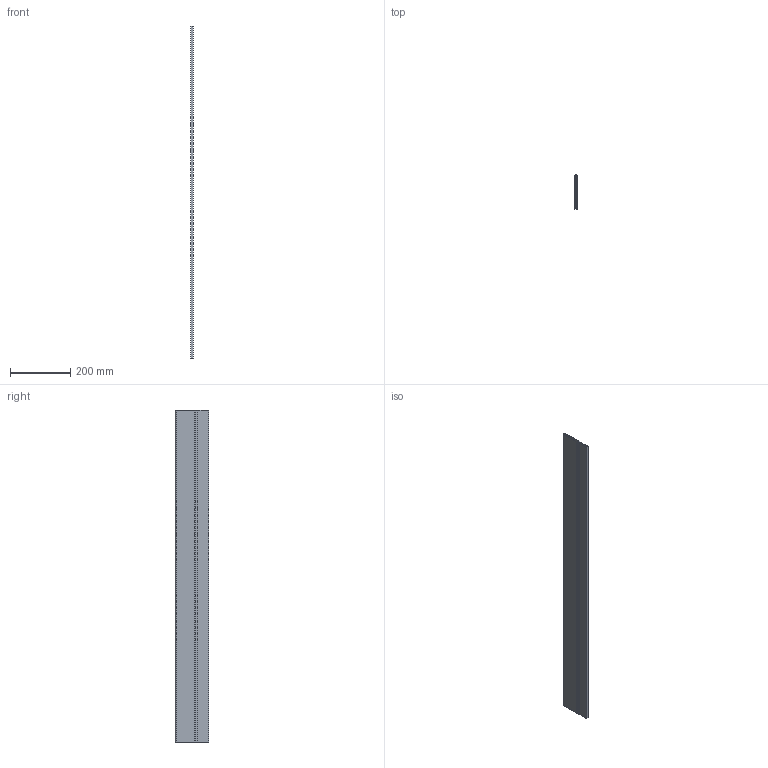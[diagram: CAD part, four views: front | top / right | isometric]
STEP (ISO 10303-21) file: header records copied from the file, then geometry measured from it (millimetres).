
FILE_DESCRIPTION (( 'STEP AP203' ), '1' );
FILE_NAME ('StrongBox pøíèný pøedìl 1100mm_179249 a 179250_3D.STEP', '2021-02-22T08:41:10', ( '' ), ( '' ), 'SwSTEP 2.0', 'SolidWorks 2019', '' );
FILE_SCHEMA (( 'CONFIG_CONTROL_DESIGN' ));
Length unit declared in the file: millimetre
Products named in the file (1): StrongBox pøíèný pøedìl 1100mm_179249 a 179250_3D
Bounding box: 8.5 x 111 x 1100 mm (x, y, z)
Volume: 256443 mm3; surface area: 513352.3 mm2
Topology: 1 solids, 1 shells, 34 faces, 96 edges, 64 vertices
Faces by surface type: plane 32, cylinder 2
Entity records: 1165 total; most frequent: CARTESIAN_POINT 195, ORIENTED_EDGE 192, DIRECTION 170, EDGE_CURVE 96, LINE 92, VECTOR 92, VERTEX_POINT 64, AXIS2_PLACEMENT_3D 39
